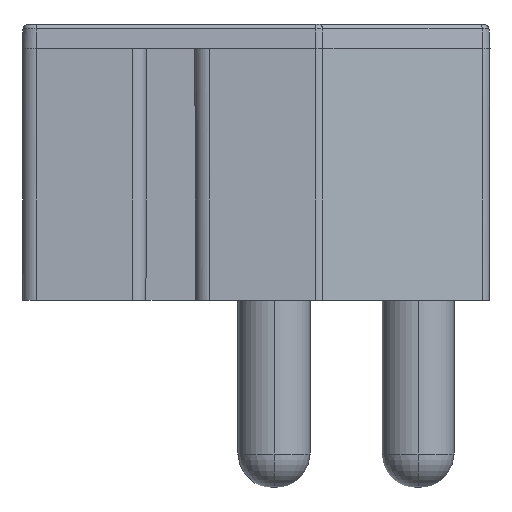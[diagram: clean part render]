
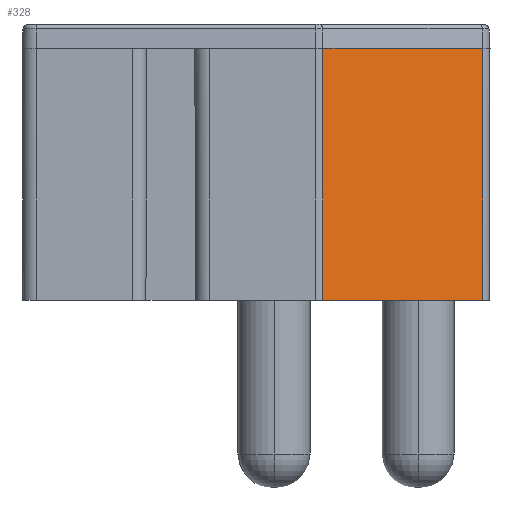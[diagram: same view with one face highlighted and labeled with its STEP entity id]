
A CAD part, left-side view. The second image highlights one B-rep face of the part: STEP entity #328.
In plain terms, the highlighted planar face has unit normal (-0.866, -0.5, -0.004).
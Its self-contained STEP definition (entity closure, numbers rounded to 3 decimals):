
#274 = EDGE_CURVE ( 'NONE', #4237, #5259, #1285, .T. ) ;
#328 = ADVANCED_FACE ( 'NONE', ( #5123 ), #2998, .T. ) ;
#510 = EDGE_CURVE ( 'NONE', #1547, #945, #4693, .T. ) ;
#531 = CARTESIAN_POINT ( 'NONE',  ( -23.37, 6.961, 0. ) ) ;
#810 = CARTESIAN_POINT ( 'NONE',  ( -23.338, 6.979, -10.5 ) ) ;
#813 = VECTOR ( 'NONE', #1179, 1000. ) ;
#874 = CARTESIAN_POINT ( 'NONE',  ( -23.45, 7.1, 0. ) ) ;
#945 = VERTEX_POINT ( 'NONE', #810 ) ;
#1179 = DIRECTION ( 'NONE',  ( 0.5, -0.866, 0. ) ) ;
#1285 = LINE ( 'NONE', #3431, #1434 ) ;
#1434 = VECTOR ( 'NONE', #4360, 1000. ) ;
#1547 = VERTEX_POINT ( 'NONE', #2198 ) ;
#1569 = VECTOR ( 'NONE', #2230, 1000. ) ;
#1690 = EDGE_LOOP ( 'NONE', ( #3956, #2799, #4862, #4919 ) ) ;
#2198 = CARTESIAN_POINT ( 'NONE',  ( -23.37, 6.961, 0. ) ) ;
#2203 = CARTESIAN_POINT ( 'NONE',  ( -23.418, 7.118, -10.5 ) ) ;
#2230 = DIRECTION ( 'NONE',  ( 0.5, -0.866, 0. ) ) ;
#2577 = DIRECTION ( 'NONE',  ( -0.866, -0.5, -0.003 ) ) ;
#2606 = DIRECTION ( 'NONE',  ( 0.5, -0.866, 0. ) ) ;
#2799 = ORIENTED_EDGE ( 'NONE', *, *, #274, .T. ) ;
#2957 = AXIS2_PLACEMENT_3D ( 'NONE', #874, #2577, #2606 ) ;
#2998 = PLANE ( 'NONE',  #2957 ) ;
#3019 = EDGE_CURVE ( 'NONE', #1547, #5259, #3326, .T. ) ;
#3301 = CARTESIAN_POINT ( 'NONE',  ( -23.45, 7.1, 0. ) ) ;
#3326 = LINE ( 'NONE', #3301, #813 ) ;
#3431 = CARTESIAN_POINT ( 'NONE',  ( -19.524, 0.3, 0. ) ) ;
#3843 = DIRECTION ( 'NONE',  ( 0.003, 0.002, -1. ) ) ;
#3956 = ORIENTED_EDGE ( 'NONE', *, *, #4504, .T. ) ;
#4237 = VERTEX_POINT ( 'NONE', #4820 ) ;
#4270 = CARTESIAN_POINT ( 'NONE',  ( -19.524, 0.3, 0. ) ) ;
#4360 = DIRECTION ( 'NONE',  ( -0.003, -0.002, 1. ) ) ;
#4504 = EDGE_CURVE ( 'NONE', #945, #4237, #4728, .T. ) ;
#4693 = LINE ( 'NONE', #531, #5097 ) ;
#4728 = LINE ( 'NONE', #2203, #1569 ) ;
#4820 = CARTESIAN_POINT ( 'NONE',  ( -19.492, 0.318, -10.5 ) ) ;
#4862 = ORIENTED_EDGE ( 'NONE', *, *, #3019, .F. ) ;
#4919 = ORIENTED_EDGE ( 'NONE', *, *, #510, .T. ) ;
#5097 = VECTOR ( 'NONE', #3843, 1000. ) ;
#5123 = FACE_OUTER_BOUND ( 'NONE', #1690, .T. ) ;
#5259 = VERTEX_POINT ( 'NONE', #4270 ) ;
